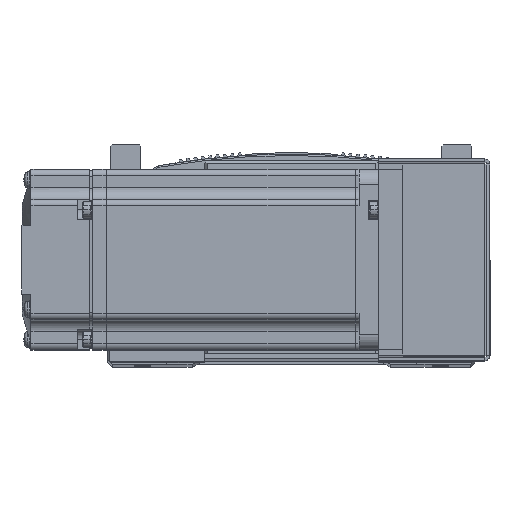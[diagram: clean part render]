
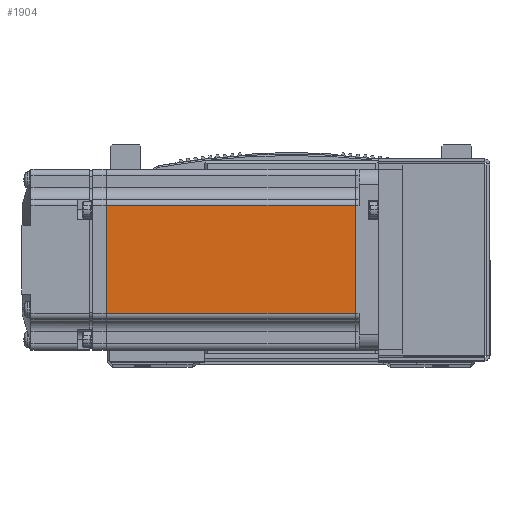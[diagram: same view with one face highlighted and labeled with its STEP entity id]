
A CAD part, top view. The second image highlights one B-rep face of the part: STEP entity #1904.
In plain terms, the highlighted planar face has unit normal (0, 0, 1) as drawn and (0, 1, 0) by its records, which use the part's own axes.
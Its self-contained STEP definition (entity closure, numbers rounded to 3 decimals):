
#86 = CARTESIAN_POINT ( 'NONE',  ( -7.75, 30., 18. ) ) ;
#99 = CARTESIAN_POINT ( 'NONE',  ( -7.75, 30., -18. ) ) ;
#1904 = ADVANCED_FACE ( 'NONE', ( #48103 ), #78598, .T. ) ;
#2157 = VECTOR ( 'NONE', #14451, 1000. ) ;
#2180 = LINE ( 'NONE', #14444, #2157 ) ;
#2233 = LINE ( 'NONE', #14558, #2278 ) ;
#2234 = VECTOR ( 'NONE', #14627, 1000. ) ;
#2235 = VECTOR ( 'NONE', #14642, 1000. ) ;
#2247 = LINE ( 'NONE', #14657, #2234 ) ;
#2278 = VECTOR ( 'NONE', #14567, 1000. ) ;
#2307 = LINE ( 'NONE', #14704, #2235 ) ;
#8136 = CARTESIAN_POINT ( 'NONE',  ( -90.45, 30., 18. ) ) ;
#8138 = CARTESIAN_POINT ( 'NONE',  ( -90.45, 30., -18. ) ) ;
#14444 = CARTESIAN_POINT ( 'NONE',  ( -6.5, 30., 18. ) ) ;
#14451 = DIRECTION ( 'NONE',  ( 1., 0., 0. ) ) ;
#14558 = CARTESIAN_POINT ( 'NONE',  ( -90.45, 30., 0. ) ) ;
#14567 = DIRECTION ( 'NONE',  ( 0., 0., 1. ) ) ;
#14627 = DIRECTION ( 'NONE',  ( 0., 0., 1. ) ) ;
#14642 = DIRECTION ( 'NONE',  ( -1., 0., 0. ) ) ;
#14657 = CARTESIAN_POINT ( 'NONE',  ( -7.75, 30., 0. ) ) ;
#14704 = CARTESIAN_POINT ( 'NONE',  ( -6.5, 30., -18. ) ) ;
#48103 = FACE_OUTER_BOUND ( 'NONE', #55542, .T. ) ;
#55542 = EDGE_LOOP ( 'NONE', ( #71020, #70980, #70948, #70958 ) ) ;
#62032 = AXIS2_PLACEMENT_3D ( 'NONE', #78532, #78542, #78544 ) ;
#69185 = EDGE_CURVE ( 'NONE', #77712, #78005, #2180, .T. ) ;
#69225 = EDGE_CURVE ( 'NONE', #77688, #77712, #2233, .T. ) ;
#69234 = EDGE_CURVE ( 'NONE', #78013, #78005, #2247, .T. ) ;
#69236 = EDGE_CURVE ( 'NONE', #78013, #77688, #2307, .T. ) ;
#70948 = ORIENTED_EDGE ( 'NONE', *, *, #69225, .T. ) ;
#70958 = ORIENTED_EDGE ( 'NONE', *, *, #69185, .T. ) ;
#70980 = ORIENTED_EDGE ( 'NONE', *, *, #69236, .T. ) ;
#71020 = ORIENTED_EDGE ( 'NONE', *, *, #69234, .F. ) ;
#77688 = VERTEX_POINT ( 'NONE', #8138 ) ;
#77712 = VERTEX_POINT ( 'NONE', #8136 ) ;
#78005 = VERTEX_POINT ( 'NONE', #86 ) ;
#78013 = VERTEX_POINT ( 'NONE', #99 ) ;
#78532 = CARTESIAN_POINT ( 'NONE',  ( -6.5, 30., 25. ) ) ;
#78542 = DIRECTION ( 'NONE',  ( 0., 1., 0. ) ) ;
#78544 = DIRECTION ( 'NONE',  ( 0., 0., 1. ) ) ;
#78598 = PLANE ( 'NONE',  #62032 ) ;
